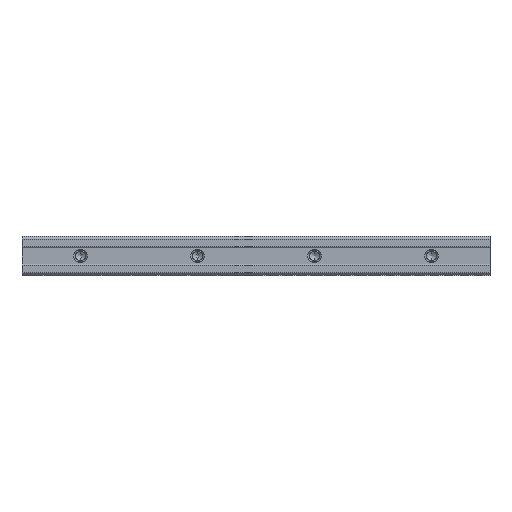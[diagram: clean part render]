
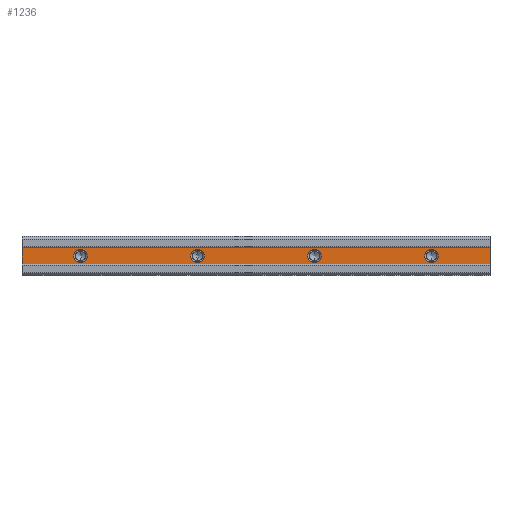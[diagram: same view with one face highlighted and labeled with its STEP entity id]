
A CAD part, front view. The second image highlights one B-rep face of the part: STEP entity #1236.
In plain terms, the highlighted planar face has unit normal (0, -1, 0).
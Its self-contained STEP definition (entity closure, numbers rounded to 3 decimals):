
#33 = CARTESIAN_POINT ( 'NONE',  ( 90., 0.5, -3.5 ) ) ;
#43 = CIRCLE ( 'NONE', #1295, 3.5 ) ;
#49 = ORIENTED_EDGE ( 'NONE', *, *, #952, .T. ) ;
#75 = CIRCLE ( 'NONE', #1919, 3.5 ) ;
#97 = DIRECTION ( 'NONE',  ( 0., 1., 0. ) ) ;
#105 = CIRCLE ( 'NONE', #1168, 3.5 ) ;
#112 = EDGE_LOOP ( 'NONE', ( #1494, #715 ) ) ;
#123 = VERTEX_POINT ( 'NONE', #1841 ) ;
#142 = CARTESIAN_POINT ( 'NONE',  ( 30., 0.5, 3.5 ) ) ;
#148 = VERTEX_POINT ( 'NONE', #991 ) ;
#159 = CARTESIAN_POINT ( 'NONE',  ( 240., 0.5, 4.25 ) ) ;
#160 = CIRCLE ( 'NONE', #1262, 3.5 ) ;
#162 = VECTOR ( 'NONE', #1274, 1000. ) ;
#178 = ORIENTED_EDGE ( 'NONE', *, *, #351, .T. ) ;
#201 = DIRECTION ( 'NONE',  ( 0., 1., 0. ) ) ;
#228 = CIRCLE ( 'NONE', #1735, 3.5 ) ;
#247 = CARTESIAN_POINT ( 'NONE',  ( 210., 0.5, 3.5 ) ) ;
#277 = CARTESIAN_POINT ( 'NONE',  ( 210., 0.5, 0. ) ) ;
#305 = DIRECTION ( 'NONE',  ( 0., 1., 0. ) ) ;
#351 = EDGE_CURVE ( 'NONE', #369, #1863, #160, .T. ) ;
#355 = AXIS2_PLACEMENT_3D ( 'NONE', #277, #549, #423 ) ;
#368 = CARTESIAN_POINT ( 'NONE',  ( 0., 0.5, 4.25 ) ) ;
#369 = VERTEX_POINT ( 'NONE', #1008 ) ;
#384 = CIRCLE ( 'NONE', #1477, 3.5 ) ;
#387 = DIRECTION ( 'NONE',  ( 0., 0., 1. ) ) ;
#388 = LINE ( 'NONE', #368, #162 ) ;
#407 = DIRECTION ( 'NONE',  ( 0., 0., 1. ) ) ;
#418 = DIRECTION ( 'NONE',  ( 0., 1., 0. ) ) ;
#423 = DIRECTION ( 'NONE',  ( 0., 0., 1. ) ) ;
#447 = CARTESIAN_POINT ( 'NONE',  ( 0., 0.5, -4.25 ) ) ;
#464 = FACE_BOUND ( 'NONE', #1067, .T. ) ;
#475 = VECTOR ( 'NONE', #1879, 1000. ) ;
#513 = VERTEX_POINT ( 'NONE', #1047 ) ;
#521 = CARTESIAN_POINT ( 'NONE',  ( 240., 0.5, -4.25 ) ) ;
#531 = DIRECTION ( 'NONE',  ( -1., 0., 0. ) ) ;
#547 = VERTEX_POINT ( 'NONE', #159 ) ;
#549 = DIRECTION ( 'NONE',  ( 0., 1., 0. ) ) ;
#575 = EDGE_CURVE ( 'NONE', #841, #123, #228, .T. ) ;
#629 = VECTOR ( 'NONE', #531, 1000. ) ;
#630 = CIRCLE ( 'NONE', #355, 3.5 ) ;
#637 = EDGE_CURVE ( 'NONE', #513, #1532, #388, .T. ) ;
#650 = VERTEX_POINT ( 'NONE', #1417 ) ;
#669 = ORIENTED_EDGE ( 'NONE', *, *, #1280, .T. ) ;
#670 = CARTESIAN_POINT ( 'NONE',  ( 150., 0.5, 3.5 ) ) ;
#678 = CARTESIAN_POINT ( 'NONE',  ( 240., 0.5, 4.25 ) ) ;
#715 = ORIENTED_EDGE ( 'NONE', *, *, #1489, .T. ) ;
#728 = CARTESIAN_POINT ( 'NONE',  ( 150., 0.5, 0. ) ) ;
#811 = EDGE_CURVE ( 'NONE', #1863, #369, #75, .T. ) ;
#828 = CARTESIAN_POINT ( 'NONE',  ( 30., 0.5, 0. ) ) ;
#841 = VERTEX_POINT ( 'NONE', #142 ) ;
#858 = DIRECTION ( 'NONE',  ( 0., 0., 1. ) ) ;
#859 = EDGE_LOOP ( 'NONE', ( #934, #1899, #969, #669 ) ) ;
#865 = EDGE_CURVE ( 'NONE', #123, #841, #384, .T. ) ;
#875 = EDGE_CURVE ( 'NONE', #148, #1532, #1399, .T. ) ;
#881 = VERTEX_POINT ( 'NONE', #956 ) ;
#886 = EDGE_LOOP ( 'NONE', ( #178, #1247 ) ) ;
#888 = EDGE_CURVE ( 'NONE', #650, #1245, #105, .T. ) ;
#894 = FACE_BOUND ( 'NONE', #112, .T. ) ;
#934 = ORIENTED_EDGE ( 'NONE', *, *, #637, .T. ) ;
#944 = ORIENTED_EDGE ( 'NONE', *, *, #575, .T. ) ;
#952 = EDGE_CURVE ( 'NONE', #1245, #650, #43, .T. ) ;
#956 = CARTESIAN_POINT ( 'NONE',  ( 210., 0.5, -3.5 ) ) ;
#969 = ORIENTED_EDGE ( 'NONE', *, *, #1326, .F. ) ;
#986 = AXIS2_PLACEMENT_3D ( 'NONE', #1287, #1450, #858 ) ;
#991 = CARTESIAN_POINT ( 'NONE',  ( 240., 0.5, -4.25 ) ) ;
#1008 = CARTESIAN_POINT ( 'NONE',  ( 150., 0.5, -3.5 ) ) ;
#1037 = CARTESIAN_POINT ( 'NONE',  ( 30., 0.5, 0. ) ) ;
#1047 = CARTESIAN_POINT ( 'NONE',  ( 0., 0.5, 4.25 ) ) ;
#1059 = EDGE_LOOP ( 'NONE', ( #1935, #944 ) ) ;
#1067 = EDGE_LOOP ( 'NONE', ( #49, #1514 ) ) ;
#1068 = FACE_BOUND ( 'NONE', #1059, .T. ) ;
#1081 = FACE_BOUND ( 'NONE', #886, .T. ) ;
#1095 = EDGE_CURVE ( 'NONE', #881, #1467, #630, .T. ) ;
#1102 = DIRECTION ( 'NONE',  ( 0., 0., 1. ) ) ;
#1121 = CARTESIAN_POINT ( 'NONE',  ( 240., 0.5, 4.25 ) ) ;
#1168 = AXIS2_PLACEMENT_3D ( 'NONE', #1873, #1692, #1273 ) ;
#1236 = ADVANCED_FACE ( 'NONE', ( #464, #1068, #1660, #1081, #894 ), #1495, .F. ) ;
#1245 = VERTEX_POINT ( 'NONE', #33 ) ;
#1247 = ORIENTED_EDGE ( 'NONE', *, *, #811, .T. ) ;
#1262 = AXIS2_PLACEMENT_3D ( 'NONE', #728, #418, #407 ) ;
#1273 = DIRECTION ( 'NONE',  ( 0., 0., 1. ) ) ;
#1274 = DIRECTION ( 'NONE',  ( 0., 0., -1. ) ) ;
#1280 = EDGE_CURVE ( 'NONE', #547, #513, #1870, .T. ) ;
#1287 = CARTESIAN_POINT ( 'NONE',  ( 210., 0.5, 0. ) ) ;
#1295 = AXIS2_PLACEMENT_3D ( 'NONE', #1436, #97, #1838 ) ;
#1326 = EDGE_CURVE ( 'NONE', #547, #148, #1729, .T. ) ;
#1356 = AXIS2_PLACEMENT_3D ( 'NONE', #1373, #305, #1501 ) ;
#1373 = CARTESIAN_POINT ( 'NONE',  ( 240., 0.5, 4.25 ) ) ;
#1399 = LINE ( 'NONE', #521, #629 ) ;
#1413 = DIRECTION ( 'NONE',  ( 0., 0., -1. ) ) ;
#1417 = CARTESIAN_POINT ( 'NONE',  ( 90., 0.5, 3.5 ) ) ;
#1423 = VECTOR ( 'NONE', #1413, 1000. ) ;
#1436 = CARTESIAN_POINT ( 'NONE',  ( 90., 0.5, 0. ) ) ;
#1450 = DIRECTION ( 'NONE',  ( 0., 1., 0. ) ) ;
#1467 = VERTEX_POINT ( 'NONE', #247 ) ;
#1471 = DIRECTION ( 'NONE',  ( 0., 1., 0. ) ) ;
#1477 = AXIS2_PLACEMENT_3D ( 'NONE', #1037, #1485, #387 ) ;
#1485 = DIRECTION ( 'NONE',  ( 0., 1., 0. ) ) ;
#1489 = EDGE_CURVE ( 'NONE', #1467, #881, #1862, .T. ) ;
#1494 = ORIENTED_EDGE ( 'NONE', *, *, #1095, .T. ) ;
#1495 = PLANE ( 'NONE',  #1356 ) ;
#1501 = DIRECTION ( 'NONE',  ( 0., 0., 1. ) ) ;
#1514 = ORIENTED_EDGE ( 'NONE', *, *, #888, .T. ) ;
#1532 = VERTEX_POINT ( 'NONE', #447 ) ;
#1660 = FACE_OUTER_BOUND ( 'NONE', #859, .T. ) ;
#1692 = DIRECTION ( 'NONE',  ( 0., 1., 0. ) ) ;
#1729 = LINE ( 'NONE', #1121, #1423 ) ;
#1735 = AXIS2_PLACEMENT_3D ( 'NONE', #828, #201, #1102 ) ;
#1779 = CARTESIAN_POINT ( 'NONE',  ( 150., 0.5, 0. ) ) ;
#1838 = DIRECTION ( 'NONE',  ( 0., 0., 1. ) ) ;
#1841 = CARTESIAN_POINT ( 'NONE',  ( 30., 0.5, -3.5 ) ) ;
#1862 = CIRCLE ( 'NONE', #986, 3.5 ) ;
#1863 = VERTEX_POINT ( 'NONE', #670 ) ;
#1870 = LINE ( 'NONE', #678, #475 ) ;
#1873 = CARTESIAN_POINT ( 'NONE',  ( 90., 0.5, 0. ) ) ;
#1879 = DIRECTION ( 'NONE',  ( -1., 0., 0. ) ) ;
#1899 = ORIENTED_EDGE ( 'NONE', *, *, #875, .F. ) ;
#1902 = DIRECTION ( 'NONE',  ( 0., 0., 1. ) ) ;
#1919 = AXIS2_PLACEMENT_3D ( 'NONE', #1779, #1471, #1902 ) ;
#1935 = ORIENTED_EDGE ( 'NONE', *, *, #865, .T. ) ;
